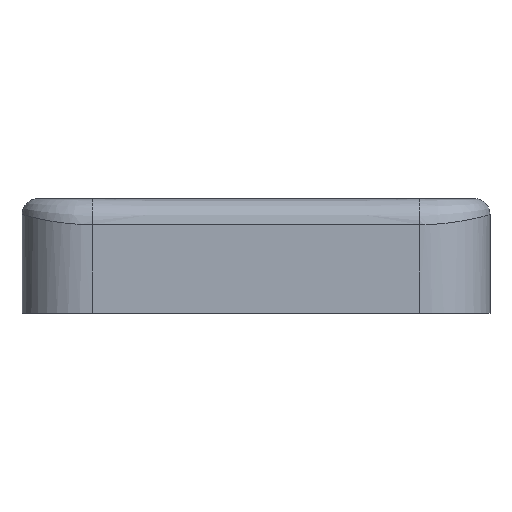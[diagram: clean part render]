
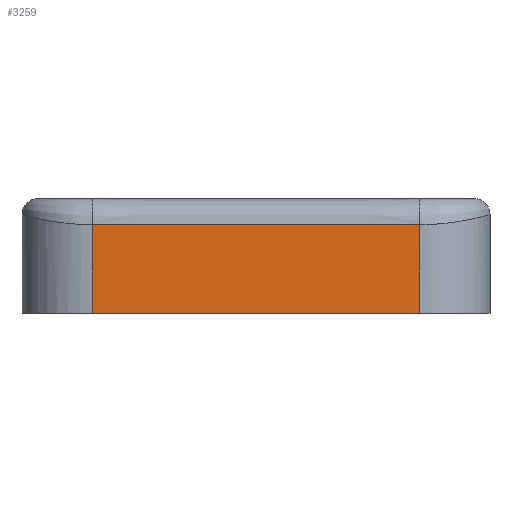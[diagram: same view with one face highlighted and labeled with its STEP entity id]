
A CAD part, front view. The second image highlights one B-rep face of the part: STEP entity #3259.
In plain terms, the highlighted planar face has unit normal (0, -1, 0).
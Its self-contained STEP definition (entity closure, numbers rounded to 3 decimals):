
#40 = VECTOR ( 'NONE', #3750, 1000. ) ;
#220 = CARTESIAN_POINT ( 'NONE',  ( -31.45, -81.35, 22. ) ) ;
#272 = FACE_OUTER_BOUND ( 'NONE', #3217, .T. ) ;
#532 = DIRECTION ( 'NONE',  ( 0., 1., 0. ) ) ;
#589 = AXIS2_PLACEMENT_3D ( 'NONE', #220, #532, #1499 ) ;
#627 = CARTESIAN_POINT ( 'NONE',  ( -31.45, -81.35, 22. ) ) ;
#987 = VECTOR ( 'NONE', #3707, 1000. ) ;
#999 = CARTESIAN_POINT ( 'NONE',  ( -31.45, -81.35, 0. ) ) ;
#1206 = ORIENTED_EDGE ( 'NONE', *, *, #1337, .T. ) ;
#1253 = CARTESIAN_POINT ( 'NONE',  ( -10.483, -81.35, 17. ) ) ;
#1285 = EDGE_CURVE ( 'NONE', #2400, #1439, #2800, .T. ) ;
#1337 = EDGE_CURVE ( 'NONE', #1439, #3808, #1941, .T. ) ;
#1439 = VERTEX_POINT ( 'NONE', #3954 ) ;
#1499 = DIRECTION ( 'NONE',  ( 0., 0., 1. ) ) ;
#1738 = CARTESIAN_POINT ( 'NONE',  ( 31.45, -81.35, 17. ) ) ;
#1787 = LINE ( 'NONE', #999, #2859 ) ;
#1793 = CARTESIAN_POINT ( 'NONE',  ( 31.45, -81.35, 17. ) ) ;
#1941 = LINE ( 'NONE', #627, #987 ) ;
#2133 = EDGE_CURVE ( 'NONE', #3808, #2937, #1787, .T. ) ;
#2305 = ORIENTED_EDGE ( 'NONE', *, *, #2133, .T. ) ;
#2321 = LINE ( 'NONE', #3713, #40 ) ;
#2400 = VERTEX_POINT ( 'NONE', #1738 ) ;
#2800 = B_SPLINE_CURVE_WITH_KNOTS ( 'NONE', 3,
 ( #1793, #3044, #1253, #3382 ),
 .UNSPECIFIED., .F., .F.,
 ( 4, 4 ),
 ( 0., 0.063 ),
 .UNSPECIFIED. ) ;
#2837 = DIRECTION ( 'NONE',  ( 1., 0., 0. ) ) ;
#2859 = VECTOR ( 'NONE', #2837, 1000. ) ;
#2892 = EDGE_CURVE ( 'NONE', #2400, #2937, #2321, .T. ) ;
#2937 = VERTEX_POINT ( 'NONE', #3103 ) ;
#3044 = CARTESIAN_POINT ( 'NONE',  ( 10.483, -81.35, 17. ) ) ;
#3103 = CARTESIAN_POINT ( 'NONE',  ( 31.45, -81.35, 0. ) ) ;
#3217 = EDGE_LOOP ( 'NONE', ( #3419, #3325, #1206, #2305 ) ) ;
#3259 = ADVANCED_FACE ( 'NONE', ( #272 ), #3886, .F. ) ;
#3319 = CARTESIAN_POINT ( 'NONE',  ( -31.45, -81.35, 0. ) ) ;
#3325 = ORIENTED_EDGE ( 'NONE', *, *, #1285, .T. ) ;
#3382 = CARTESIAN_POINT ( 'NONE',  ( -31.45, -81.35, 17. ) ) ;
#3419 = ORIENTED_EDGE ( 'NONE', *, *, #2892, .F. ) ;
#3707 = DIRECTION ( 'NONE',  ( 0., 0., -1. ) ) ;
#3713 = CARTESIAN_POINT ( 'NONE',  ( 31.45, -81.35, 22. ) ) ;
#3750 = DIRECTION ( 'NONE',  ( 0., 0., -1. ) ) ;
#3808 = VERTEX_POINT ( 'NONE', #3319 ) ;
#3886 = PLANE ( 'NONE',  #589 ) ;
#3954 = CARTESIAN_POINT ( 'NONE',  ( -31.45, -81.35, 17. ) ) ;
